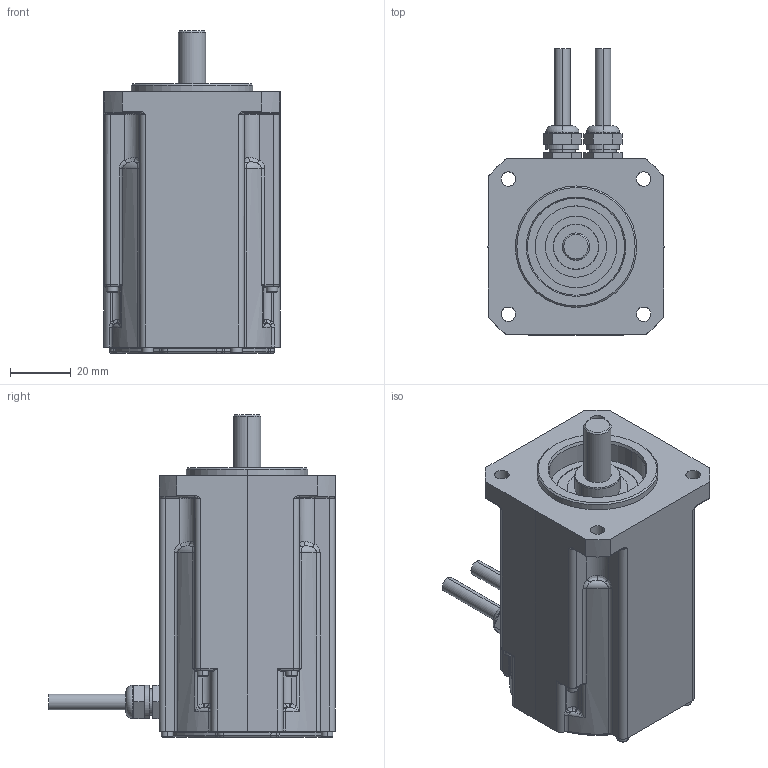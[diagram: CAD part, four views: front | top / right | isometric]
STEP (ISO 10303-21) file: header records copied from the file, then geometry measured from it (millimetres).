
FILE_DESCRIPTION (( 'STEP AP214' ), '1' );
FILE_NAME ('MR7721-Ux-Nxx-G01-AK2-M0-P0.stp', '2009-04-08T13:46:00', ( 'SysAdmin' ), ( 'SolidWorks' ), 'SwSTEP 2.0', 'SolidWorks 2009', '' );
FILE_SCHEMA (( 'AUTOMOTIVE_DESIGN' ));
Length unit declared in the file: millimetre
Products named in the file (1): MR7721-Ux-Nxx-G01-AK2-M0-P0
Bounding box: 58 x 94.32 x 106.2 mm (x, y, z)
Volume: 248969.4 mm3; surface area: 28599.5 mm2
Topology: 1 solids, 1 shells, 435 faces, 1022 edges, 592 vertices
Faces by surface type: cylinder 136, bspline 124, plane 107, torus 40, cone 28
Entity records: 16600 total; most frequent: CARTESIAN_POINT 6342, ORIENTED_EDGE 2004, DIRECTION 1758, EDGE_CURVE 1002, AXIS2_PLACEMENT_3D 704, VERTEX_POINT 592, EDGE_LOOP 466, ADVANCED_FACE 435
